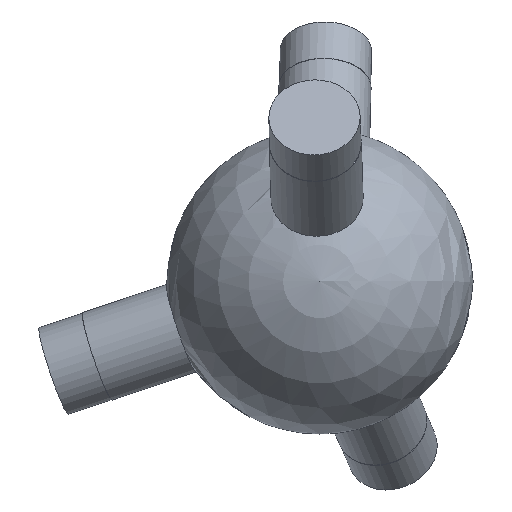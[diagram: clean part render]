
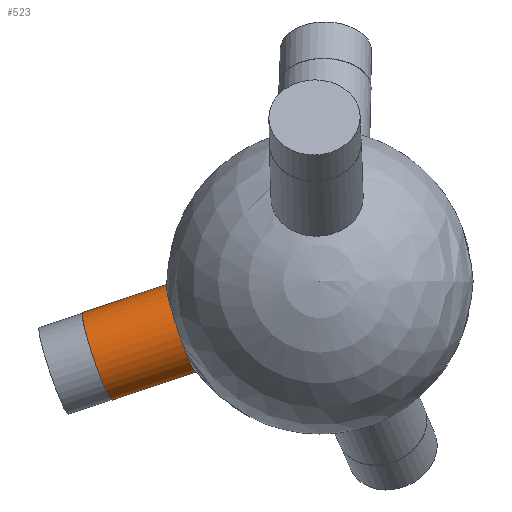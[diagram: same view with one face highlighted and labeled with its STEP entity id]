
A CAD part, top view. The second image highlights one B-rep face of the part: STEP entity #523.
In plain terms, the highlighted cylindrical face has radius 6 mm (diameter 12 mm), a full revolution.
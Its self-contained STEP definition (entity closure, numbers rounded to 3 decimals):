
#35 = SPHERICAL_SURFACE('',#36,20.);
#36 = AXIS2_PLACEMENT_3D('',#37,#38,#39);
#37 = CARTESIAN_POINT('',(0.,0.,0.));
#38 = DIRECTION('',(0.,0.,1.));
#39 = DIRECTION('',(1.,0.,-0.));
#223 = EDGE_CURVE('',#224,#224,#226,.T.);
#224 = VERTEX_POINT('',#225);
#225 = CARTESIAN_POINT('',(-16.097,-11.736,
    -1.778));
#226 = SURFACE_CURVE('',#227,(#232,#294),.PCURVE_S1.);
#227 = CIRCLE('',#228,6.);
#228 = AXIS2_PLACEMENT_3D('',#229,#230,#231);
#229 = CARTESIAN_POINT('',(-18.007,-6.048,
    -1.778));
#230 = DIRECTION('',(-0.944,-0.317,-0.093
    ));
#231 = DIRECTION('',(0.318,-0.948,0.)
  );
#232 = PCURVE('',#35,#233);
#233 = DEFINITIONAL_REPRESENTATION('',(#234),#293);
#234 = B_SPLINE_CURVE_WITH_KNOTS('',8,(#235,#236,#237,#238,#239,#240,
    #241,#242,#243,#244,#245,#246,#247,#248,#249,#250,#251,#252,#253,
    #254,#255,#256,#257,#258,#259,#260,#261,#262,#263,#264,#265,#266,
    #267,#268,#269,#270,#271,#272,#273,#274,#275,#276,#277,#278,#279,
    #280,#281,#282,#283,#284,#285,#286,#287,#288,#289,#290,#291,#292),
  .UNSPECIFIED.,.F.,.F.,(9,7,7,7,7,7,7,7,9),(0.,0.785,
    1.473,2.074,3.126,3.915,
    4.507,5.395,6.283),.UNSPECIFIED.);
#235 = CARTESIAN_POINT('',(3.772,-0.089));
#236 = CARTESIAN_POINT('',(3.771,-0.06));
#237 = CARTESIAN_POINT('',(3.767,-0.03));
#238 = CARTESIAN_POINT('',(3.76,-0.001));
#239 = CARTESIAN_POINT('',(3.749,0.027));
#240 = CARTESIAN_POINT('',(3.736,0.053));
#241 = CARTESIAN_POINT('',(3.72,0.079));
#242 = CARTESIAN_POINT('',(3.702,0.102));
#243 = CARTESIAN_POINT('',(3.663,0.141));
#244 = CARTESIAN_POINT('',(3.643,0.157));
#245 = CARTESIAN_POINT('',(3.621,0.172));
#246 = CARTESIAN_POINT('',(3.598,0.184));
#247 = CARTESIAN_POINT('',(3.573,0.195));
#248 = CARTESIAN_POINT('',(3.548,0.202));
#249 = CARTESIAN_POINT('',(3.522,0.207));
#250 = CARTESIAN_POINT('',(3.473,0.212));
#251 = CARTESIAN_POINT('',(3.45,0.212));
#252 = CARTESIAN_POINT('',(3.426,0.211));
#253 = CARTESIAN_POINT('',(3.404,0.207));
#254 = CARTESIAN_POINT('',(3.381,0.201));
#255 = CARTESIAN_POINT('',(3.359,0.194));
#256 = CARTESIAN_POINT('',(3.338,0.185));
#257 = CARTESIAN_POINT('',(3.283,0.154));
#258 = CARTESIAN_POINT('',(3.251,0.13));
#259 = CARTESIAN_POINT('',(3.223,0.101));
#260 = CARTESIAN_POINT('',(3.2,0.068));
#261 = CARTESIAN_POINT('',(3.182,0.032));
#262 = CARTESIAN_POINT('',(3.169,-0.006));
#263 = CARTESIAN_POINT('',(3.162,-0.045));
#264 = CARTESIAN_POINT('',(3.159,-0.114));
#265 = CARTESIAN_POINT('',(3.16,-0.144));
#266 = CARTESIAN_POINT('',(3.166,-0.173));
#267 = CARTESIAN_POINT('',(3.174,-0.202));
#268 = CARTESIAN_POINT('',(3.186,-0.23));
#269 = CARTESIAN_POINT('',(3.2,-0.256));
#270 = CARTESIAN_POINT('',(3.218,-0.28));
#271 = CARTESIAN_POINT('',(3.254,-0.319));
#272 = CARTESIAN_POINT('',(3.271,-0.334));
#273 = CARTESIAN_POINT('',(3.29,-0.348));
#274 = CARTESIAN_POINT('',(3.31,-0.36));
#275 = CARTESIAN_POINT('',(3.331,-0.371));
#276 = CARTESIAN_POINT('',(3.353,-0.38));
#277 = CARTESIAN_POINT('',(3.376,-0.386));
#278 = CARTESIAN_POINT('',(3.435,-0.399));
#279 = CARTESIAN_POINT('',(3.471,-0.401));
#280 = CARTESIAN_POINT('',(3.508,-0.4));
#281 = CARTESIAN_POINT('',(3.544,-0.393));
#282 = CARTESIAN_POINT('',(3.579,-0.382));
#283 = CARTESIAN_POINT('',(3.611,-0.367));
#284 = CARTESIAN_POINT('',(3.641,-0.348));
#285 = CARTESIAN_POINT('',(3.693,-0.304));
#286 = CARTESIAN_POINT('',(3.716,-0.279));
#287 = CARTESIAN_POINT('',(3.736,-0.251));
#288 = CARTESIAN_POINT('',(3.751,-0.221));
#289 = CARTESIAN_POINT('',(3.762,-0.189));
#290 = CARTESIAN_POINT('',(3.769,-0.156));
#291 = CARTESIAN_POINT('',(3.772,-0.122));
#292 = CARTESIAN_POINT('',(3.772,-0.089));
#293 = ( GEOMETRIC_REPRESENTATION_CONTEXT(2) 
PARAMETRIC_REPRESENTATION_CONTEXT() REPRESENTATION_CONTEXT('2D SPACE',''
  ) );
#294 = PCURVE('',#295,#300);
#295 = CYLINDRICAL_SURFACE('',#296,6.);
#296 = AXIS2_PLACEMENT_3D('',#297,#298,#299);
#297 = CARTESIAN_POINT('',(0.,0.,0.));
#298 = DIRECTION('',(-0.944,-0.317,-0.093
    ));
#299 = DIRECTION('',(0.318,-0.948,0.)
  );
#300 = DEFINITIONAL_REPRESENTATION('',(#301),#305);
#301 = LINE('',#302,#303);
#302 = CARTESIAN_POINT('',(0.,19.079));
#303 = VECTOR('',#304,1.);
#304 = DIRECTION('',(1.,0.));
#305 = ( GEOMETRIC_REPRESENTATION_CONTEXT(2) 
PARAMETRIC_REPRESENTATION_CONTEXT() REPRESENTATION_CONTEXT('2D SPACE',''
  ) );
#523 = ADVANCED_FACE('',(#524),#295,.T.);
#524 = FACE_BOUND('',#525,.T.);
#525 = EDGE_LOOP('',(#526,#549,#576,#577));
#526 = ORIENTED_EDGE('',*,*,#527,.T.);
#527 = EDGE_CURVE('',#224,#528,#530,.T.);
#528 = VERTEX_POINT('',#529);
#529 = CARTESIAN_POINT('',(-27.052,-15.415,
    -2.86));
#530 = SEAM_CURVE('',#531,(#535,#542),.PCURVE_S1.);
#531 = LINE('',#532,#533);
#532 = CARTESIAN_POINT('',(1.91,-5.688,
    0.));
#533 = VECTOR('',#534,1.);
#534 = DIRECTION('',(-0.944,-0.317,-0.093
    ));
#535 = PCURVE('',#295,#536);
#536 = DEFINITIONAL_REPRESENTATION('',(#537),#541);
#537 = LINE('',#538,#539);
#538 = CARTESIAN_POINT('',(6.283,-0.));
#539 = VECTOR('',#540,1.);
#540 = DIRECTION('',(0.,1.));
#541 = ( GEOMETRIC_REPRESENTATION_CONTEXT(2) 
PARAMETRIC_REPRESENTATION_CONTEXT() REPRESENTATION_CONTEXT('2D SPACE',''
  ) );
#542 = PCURVE('',#295,#543);
#543 = DEFINITIONAL_REPRESENTATION('',(#544),#548);
#544 = LINE('',#545,#546);
#545 = CARTESIAN_POINT('',(0.,-0.));
#546 = VECTOR('',#547,1.);
#547 = DIRECTION('',(0.,1.));
#548 = ( GEOMETRIC_REPRESENTATION_CONTEXT(2) 
PARAMETRIC_REPRESENTATION_CONTEXT() REPRESENTATION_CONTEXT('2D SPACE',''
  ) );
#549 = ORIENTED_EDGE('',*,*,#550,.F.);
#550 = EDGE_CURVE('',#528,#528,#551,.T.);
#551 = SURFACE_CURVE('',#552,(#557,#564),.PCURVE_S1.);
#552 = CIRCLE('',#553,6.);
#553 = AXIS2_PLACEMENT_3D('',#554,#555,#556);
#554 = CARTESIAN_POINT('',(-28.962,-9.727,
    -2.86));
#555 = DIRECTION('',(-0.944,-0.317,-0.093
    ));
#556 = DIRECTION('',(0.318,-0.948,0.)
  );
#557 = PCURVE('',#295,#558);
#558 = DEFINITIONAL_REPRESENTATION('',(#559),#563);
#559 = LINE('',#560,#561);
#560 = CARTESIAN_POINT('',(0.,30.686));
#561 = VECTOR('',#562,1.);
#562 = DIRECTION('',(1.,0.));
#563 = ( GEOMETRIC_REPRESENTATION_CONTEXT(2) 
PARAMETRIC_REPRESENTATION_CONTEXT() REPRESENTATION_CONTEXT('2D SPACE',''
  ) );
#564 = PCURVE('',#565,#570);
#565 = PLANE('',#566);
#566 = AXIS2_PLACEMENT_3D('',#567,#568,#569);
#567 = CARTESIAN_POINT('',(-28.962,-9.727,
    -2.86));
#568 = DIRECTION('',(-0.944,-0.317,-0.093
    ));
#569 = DIRECTION('',(0.318,-0.948,0.)
  );
#570 = DEFINITIONAL_REPRESENTATION('',(#571),#575);
#571 = CIRCLE('',#572,6.);
#572 = AXIS2_PLACEMENT_2D('',#573,#574);
#573 = CARTESIAN_POINT('',(0.,0.));
#574 = DIRECTION('',(1.,0.));
#575 = ( GEOMETRIC_REPRESENTATION_CONTEXT(2) 
PARAMETRIC_REPRESENTATION_CONTEXT() REPRESENTATION_CONTEXT('2D SPACE',''
  ) );
#576 = ORIENTED_EDGE('',*,*,#527,.F.);
#577 = ORIENTED_EDGE('',*,*,#223,.T.);
